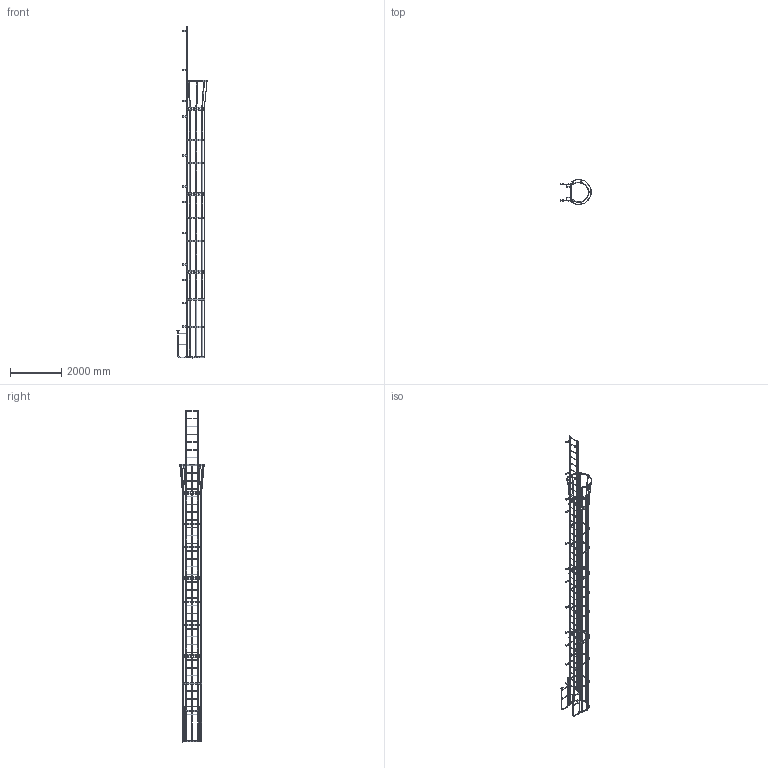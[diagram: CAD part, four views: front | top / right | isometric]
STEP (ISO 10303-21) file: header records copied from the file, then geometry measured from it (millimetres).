
FILE_DESCRIPTION(/* description */ (''),/* implementation_level */ '2;1');
FILE_NAME(/* name */ 'C:\Vault Working Folder\Company\Cotterman\3057\3570401 F40WC SIMPLIFIED PART.stp',/* time_stamp */ '2020-05-07T14:25:31-04:00',/* author */ ('karen'),/* organization */ (''),/* preprocessor_version */ 'ST-DEVELOPER v18',/* originating_system */ 'Autodesk Inventor 2020',/* authorisation */ '');
FILE_SCHEMA (('AUTOMOTIVE_DESIGN { 1 0 10303 214 3 1 1 }'));
Length unit declared in the file: centimetre
Products named in the file (1): 3570401 F40WC SIMPLIFIED PART
Bounding box: 1195.62 x 977.88 x 13001.62 mm (x, y, z)
Volume: 45085818 mm3; surface area: 16920674.3 mm2
Topology: 53 solids, 53 shells, 1414 faces, 4423 edges, 2894 vertices
Faces by surface type: plane 930, cylinder 476, torus 8
Full cylindrical faces by diameter (mm): 10.319 x4, 14.287 x30, 19.05 x40, 22.098 x10, 22.225 x80, 25.4 x8
Entity records: 52261 total; most frequent: CARTESIAN_POINT 9200, ORIENTED_EDGE 8934, DIRECTION 8605, EDGE_CURVE 4467, LINE 3111, VECTOR 3111, VERTEX_POINT 2910, AXIS2_PLACEMENT_3D 2747
